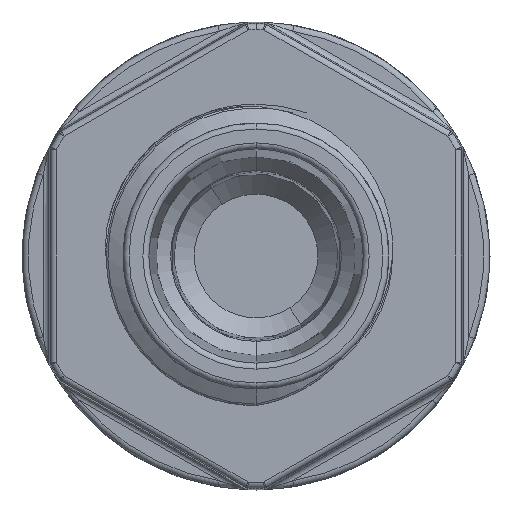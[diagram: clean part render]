
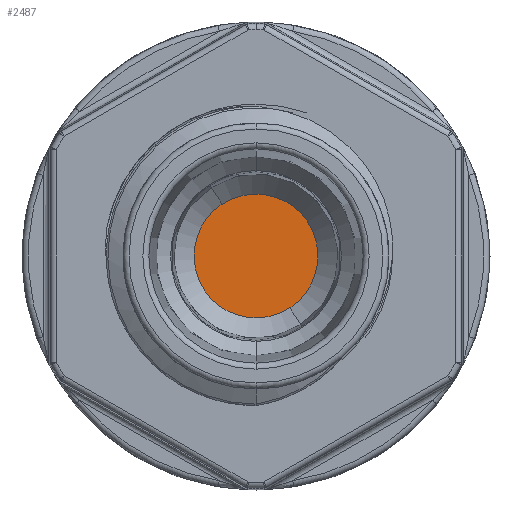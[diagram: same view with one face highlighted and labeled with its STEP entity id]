
A CAD part, front view. The second image highlights one B-rep face of the part: STEP entity #2487.
In plain terms, the highlighted planar face has unit normal (0, -1, 0).
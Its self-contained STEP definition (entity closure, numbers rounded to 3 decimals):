
#396 = PLANE ( 'NONE',  #19911 ) ;
#833 = DIRECTION ( 'NONE',  ( 0., 0., 1. ) ) ;
#863 = EDGE_CURVE ( 'NONE', #8765, #23703, #19451, .T. ) ;
#2487 = ADVANCED_FACE ( 'NONE', ( #21320 ), #396, .F. ) ;
#3758 = DIRECTION ( 'NONE',  ( 0., -1., 0. ) ) ;
#6359 = AXIS2_PLACEMENT_3D ( 'NONE', #25864, #9809, #12066 ) ;
#6655 = CARTESIAN_POINT ( 'NONE',  ( 0., 10., 0. ) ) ;
#8765 = VERTEX_POINT ( 'NONE', #24592 ) ;
#9809 = DIRECTION ( 'NONE',  ( 0., -1., 0. ) ) ;
#10906 = EDGE_LOOP ( 'NONE', ( #13720, #29236 ) ) ;
#12066 = DIRECTION ( 'NONE',  ( 0., 0., -1. ) ) ;
#12207 = DIRECTION ( 'NONE',  ( 0., 1., 0. ) ) ;
#13159 = DIRECTION ( 'NONE',  ( 0., 0., -1. ) ) ;
#13720 = ORIENTED_EDGE ( 'NONE', *, *, #863, .T. ) ;
#13754 = AXIS2_PLACEMENT_3D ( 'NONE', #6655, #3758, #13159 ) ;
#15278 = CARTESIAN_POINT ( 'NONE',  ( 0., 10., 3.11 ) ) ;
#16614 = CARTESIAN_POINT ( 'NONE',  ( 0., 10., 0. ) ) ;
#16685 = CIRCLE ( 'NONE', #13754, 3.11 ) ;
#19451 = CIRCLE ( 'NONE', #6359, 3.11 ) ;
#19911 = AXIS2_PLACEMENT_3D ( 'NONE', #16614, #12207, #833 ) ;
#21320 = FACE_OUTER_BOUND ( 'NONE', #10906, .T. ) ;
#23703 = VERTEX_POINT ( 'NONE', #15278 ) ;
#24592 = CARTESIAN_POINT ( 'NONE',  ( 0., 10., -3.11 ) ) ;
#24931 = EDGE_CURVE ( 'NONE', #23703, #8765, #16685, .T. ) ;
#25864 = CARTESIAN_POINT ( 'NONE',  ( 0., 10., 0. ) ) ;
#29236 = ORIENTED_EDGE ( 'NONE', *, *, #24931, .T. ) ;
